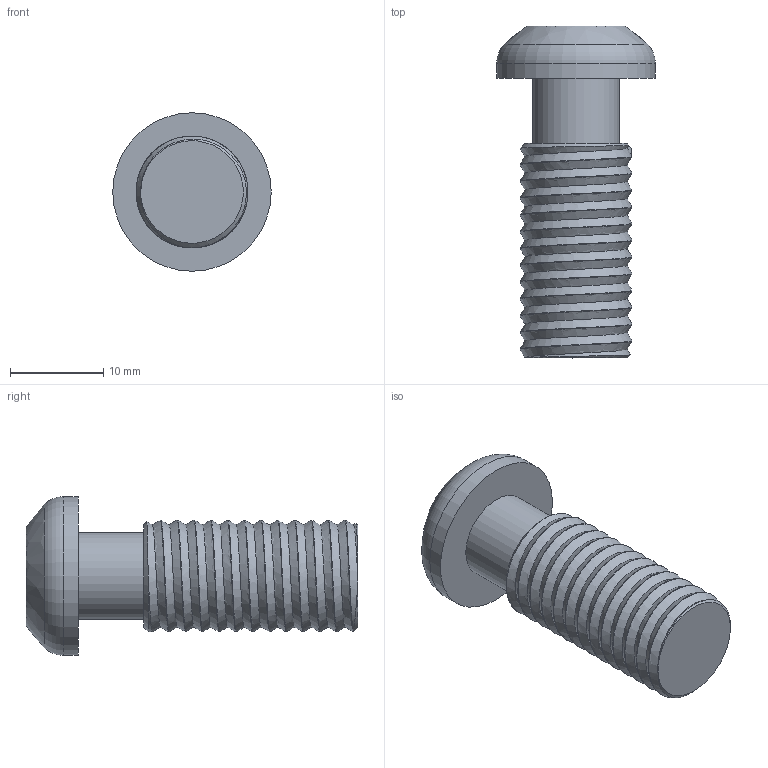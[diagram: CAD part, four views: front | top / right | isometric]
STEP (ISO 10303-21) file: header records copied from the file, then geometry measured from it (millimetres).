
FILE_DESCRIPTION((''),'2;1');
FILE_NAME('E:\catalogue and flyer\Profile catalogue 2015\Accessories JE info\Accessories-JE step file 31MAr16\JE-BH12x30-10.stp','2016-03-31T15:02:03',('h029'),(''),'Autodesk Inventor 11','Autodesk Inventor 11','');
FILE_SCHEMA(('AUTOMOTIVE_DESIGN { 1 0 10303 214 1 1 1 1 }'));
Length unit declared in the file: millimetre
Products named in the file (1): JE-BH12x30-10
Bounding box: 17 x 35.6 x 17 mm (x, y, z)
Volume: 3673.3 mm3; surface area: 1984.3 mm2
Topology: 1 solids, 1 shells, 22 faces, 47 edges, 31 vertices
Faces by surface type: plane 12, cylinder 3, cone 3, bspline 2, torus 1, sphere 1
Full cylindrical faces by diameter (mm): 9.3 x1, 17 x1
Entity records: 3472 total; most frequent: CARTESIAN_POINT 3023, ORIENTED_EDGE 82, DIRECTION 80, EDGE_CURVE 41, AXIS2_PLACEMENT_3D 32, EDGE_LOOP 31, VERTEX_POINT 30, FACE_OUTER_BOUND 22
